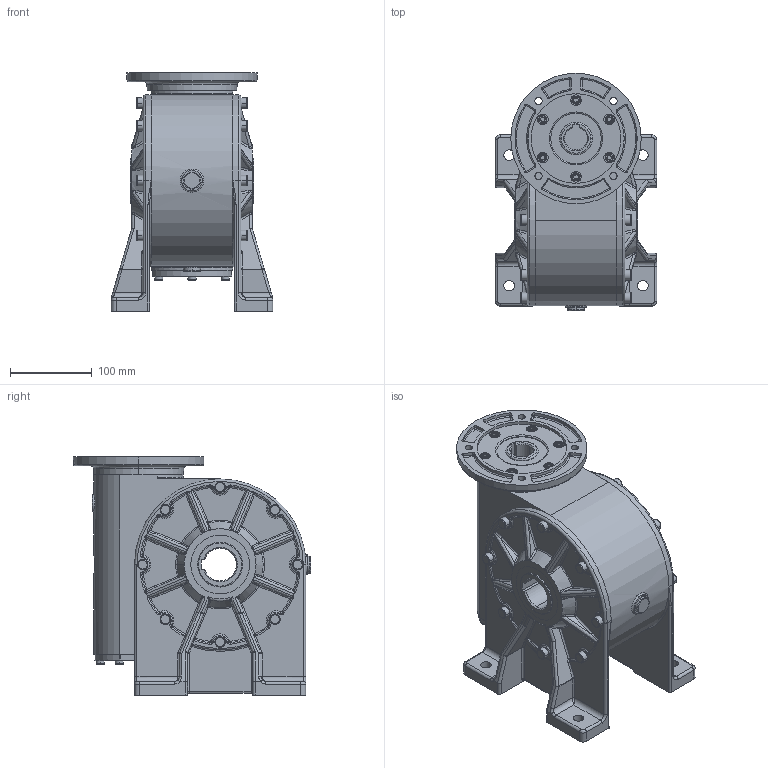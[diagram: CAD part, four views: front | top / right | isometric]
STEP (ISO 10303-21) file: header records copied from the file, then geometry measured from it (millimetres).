
FILE_DESCRIPTION (( 'STEP AP214' ), '1' );
FILE_NAME ('Sestava MRT100-V.STEP', '2007-06-26T07:17:40', ( '' ), ( '' ), 'SwSTEP 2.0', 'SolidWorks 2004146', '' );
FILE_SCHEMA (( 'AUTOMOTIVE_DESIGN' ));
Length unit declared in the file: millimetre
Products named in the file (6): Skøíò100_Výchozí; Sroub s vnitrnim sestihranem DIN 912 00457ROI; Sestava MRT100-V; Patka 100_Výchozí; Víèko_Výchozí; Pøíruba MRT100 kulatá _110-130-150
Assembly tree (11 placements, depth 2):
  Sestava MRT100-V
    Víèko_Výchozí
    Sroub s vnitrnim sestihranem DIN 912 00457ROI  x6
    Patka 100_Výchozí  x2
    Pøíruba MRT100 kulatá _110-130-150
    Skøíò100_Výchozí
Bounding box: 198 x 291 x 292 mm (x, y, z)
Volume: 6382338.8 mm3; surface area: 571035.4 mm2
Topology: 11 solids, 11 shells, 1303 faces, 2984 edges, 1712 vertices
Faces by surface type: torus 381, cylinder 297, plane 228, bspline 202, cone 131, sphere 64
Entity records: 68327 total; most frequent: CARTESIAN_POINT 51261, DIRECTION 3766, ORIENTED_EDGE 3430, EDGE_CURVE 1715, AXIS2_PLACEMENT_3D 1687, CIRCLE 1026, VERTEX_POINT 1017, EDGE_LOOP 824
